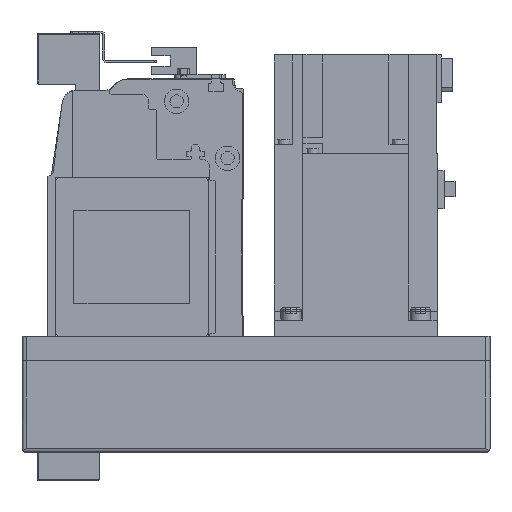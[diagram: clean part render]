
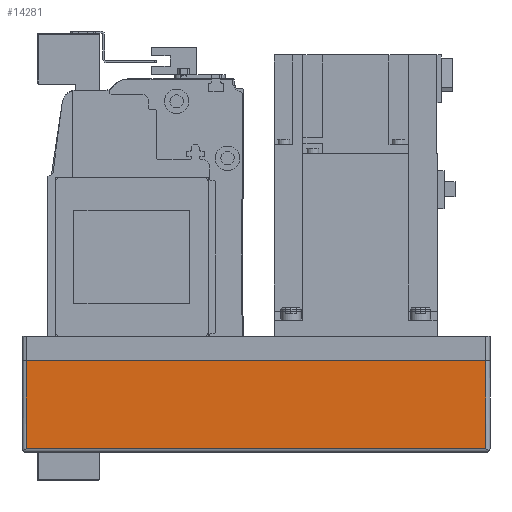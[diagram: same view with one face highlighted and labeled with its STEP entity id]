
A CAD part, left-side view. The second image highlights one B-rep face of the part: STEP entity #14281.
In plain terms, the highlighted planar face has unit normal (-1, 0, 0) as drawn and (0, 1, 0) by its records, which use the part's own axes.
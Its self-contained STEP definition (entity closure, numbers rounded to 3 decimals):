
#2572=ORIENTED_EDGE('',*,*,#5912,.F.);
#2573=ORIENTED_EDGE('',*,*,#5852,.T.);
#2574=ORIENTED_EDGE('',*,*,#5913,.F.);
#2575=ORIENTED_EDGE('',*,*,#5847,.F.);
#5847=EDGE_CURVE('',#7666,#7667,#9160,.T.);
#5852=EDGE_CURVE('',#7672,#7671,#9162,.T.);
#5912=EDGE_CURVE('',#7672,#7666,#9205,.T.);
#5913=EDGE_CURVE('',#7667,#7671,#9206,.T.);
#7666=VERTEX_POINT('',#22408);
#7667=VERTEX_POINT('',#22410);
#7671=VERTEX_POINT('',#22419);
#7672=VERTEX_POINT('',#22421);
#9160=LINE('',#22409,#10473);
#9162=LINE('',#22420,#10475);
#9205=LINE('',#22543,#10518);
#9206=LINE('',#22544,#10519);
#10473=VECTOR('',#17877,1000.);
#10475=VECTOR('',#17887,1000.);
#10518=VECTOR('',#18008,1000.);
#10519=VECTOR('',#18009,1000.);
#11626=EDGE_LOOP('',(#2572,#2573,#2574,#2575));
#12737=FACE_BOUND('',#11626,.T.);
#13680=PLANE('',#15356);
#14281=ADVANCED_FACE('',(#12737),#13680,.T.);
#15356=AXIS2_PLACEMENT_3D('',#22542,#18006,#18007);
#17877=DIRECTION('',(0.,0.,1.));
#17887=DIRECTION('',(0.,0.,1.));
#18006=DIRECTION('',(0.,1.,0.));
#18007=DIRECTION('',(0.,0.,1.));
#18008=DIRECTION('',(1.,0.,0.));
#18009=DIRECTION('',(-1.,0.,0.));
#22408=CARTESIAN_POINT('',(-2.,54.,-55.));
#22409=CARTESIAN_POINT('',(-2.,54.,-57.));
#22410=CARTESIAN_POINT('',(-2.,54.,-12.));
#22419=CARTESIAN_POINT('',(-228.,54.,-12.));
#22420=CARTESIAN_POINT('',(-228.,54.,-57.));
#22421=CARTESIAN_POINT('',(-228.,54.,-55.));
#22542=CARTESIAN_POINT('',(-2.,54.,-57.));
#22543=CARTESIAN_POINT('',(-230.,54.,-55.));
#22544=CARTESIAN_POINT('',(-2.,54.,-12.));
